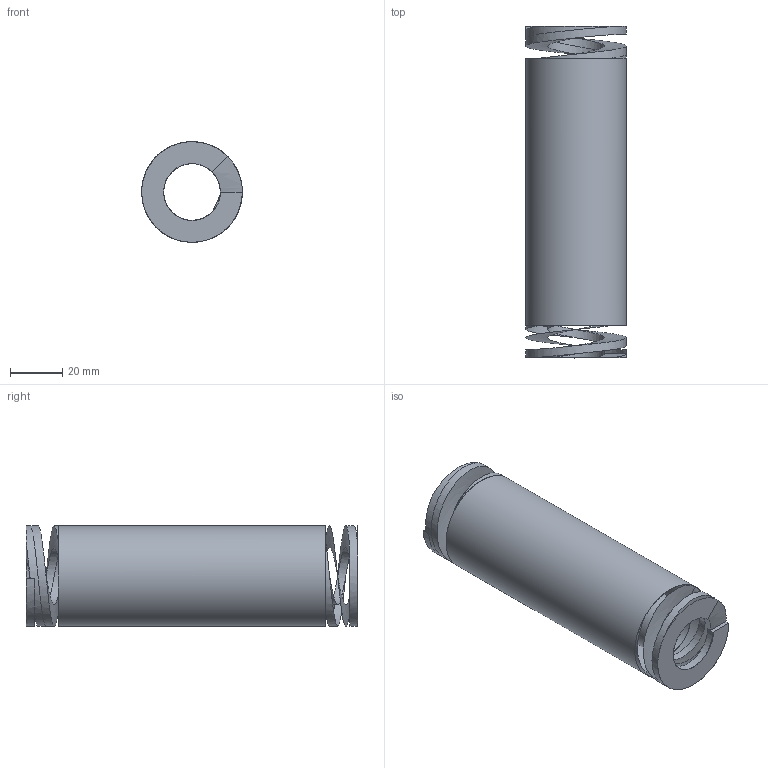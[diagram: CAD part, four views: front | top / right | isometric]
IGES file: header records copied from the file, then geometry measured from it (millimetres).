
Global section: file name: 3S38126; native system: Autodesk Inventor 2026; preprocessor: unknown; author: J. Iwanek; date: 20261007.114440; units: millimetre
Bounding box: 38.51 x 127 x 38.5 mm (x, y, z)
Volume: 52869.7 mm3; surface area: 25524.7 mm2
Topology: 1 solids, 1 shells, 22 faces, 74 edges, 46 vertices
Faces by surface type: bspline 22
